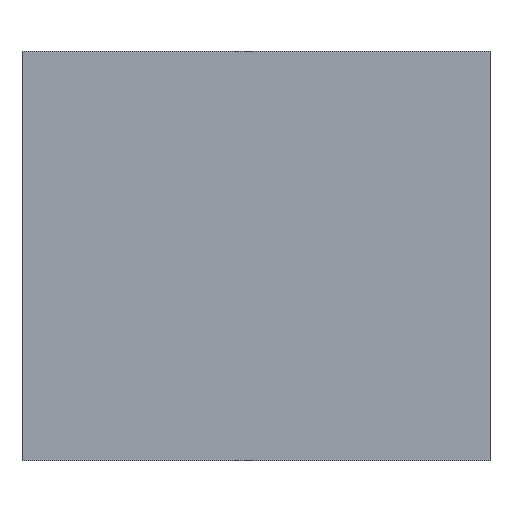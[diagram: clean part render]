
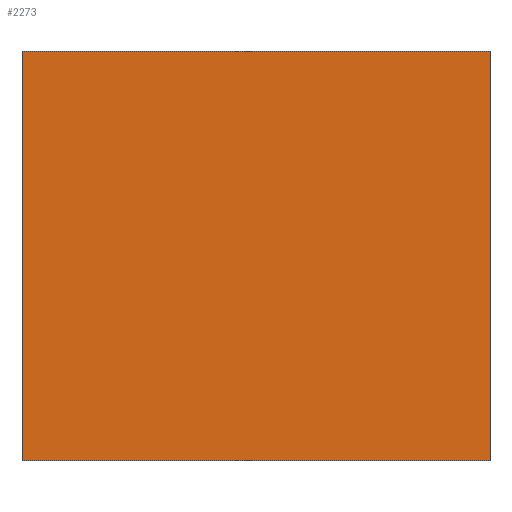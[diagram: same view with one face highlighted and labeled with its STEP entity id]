
A CAD part, front view. The second image highlights one B-rep face of the part: STEP entity #2273.
In plain terms, the highlighted planar face has unit normal (0, -1, 0).
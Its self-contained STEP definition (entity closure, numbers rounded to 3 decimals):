
#166 = CARTESIAN_POINT ( 'NONE',  ( 40., -17.5, 17.5 ) ) ;
#418 = ORIENTED_EDGE ( 'NONE', *, *, #14322, .T. ) ;
#975 = LINE ( 'NONE', #11564, #3925 ) ;
#1130 = VERTEX_POINT ( 'NONE', #9461 ) ;
#1378 = CARTESIAN_POINT ( 'NONE',  ( 40., -17.5, -17.5 ) ) ;
#1462 = CARTESIAN_POINT ( 'NONE',  ( 40., -17.5, 17.5 ) ) ;
#2167 = EDGE_CURVE ( 'NONE', #3015, #5274, #7772, .T. ) ;
#2273 = ADVANCED_FACE ( 'NONE', ( #6046 ), #9205, .F. ) ;
#2400 = DIRECTION ( 'NONE',  ( 0., 0., -1. ) ) ;
#2550 = DIRECTION ( 'NONE',  ( 0., 0., 1. ) ) ;
#2788 = ORIENTED_EDGE ( 'NONE', *, *, #10427, .F. ) ;
#2977 = VECTOR ( 'NONE', #6181, 1000. ) ;
#3015 = VERTEX_POINT ( 'NONE', #11550 ) ;
#3750 = DIRECTION ( 'NONE',  ( -1., 0., 0. ) ) ;
#3925 = VECTOR ( 'NONE', #3750, 1000. ) ;
#5274 = VERTEX_POINT ( 'NONE', #13120 ) ;
#6046 = FACE_OUTER_BOUND ( 'NONE', #6774, .T. ) ;
#6078 = ORIENTED_EDGE ( 'NONE', *, *, #2167, .T. ) ;
#6181 = DIRECTION ( 'NONE',  ( -1., 0., 0. ) ) ;
#6494 = VERTEX_POINT ( 'NONE', #1378 ) ;
#6774 = EDGE_LOOP ( 'NONE', ( #6078, #8152, #2788, #418 ) ) ;
#7102 = VECTOR ( 'NONE', #2400, 1000. ) ;
#7772 = LINE ( 'NONE', #13527, #13424 ) ;
#8152 = ORIENTED_EDGE ( 'NONE', *, *, #11894, .F. ) ;
#9205 = PLANE ( 'NONE',  #11233 ) ;
#9251 = DIRECTION ( 'NONE',  ( 0., 1., 0. ) ) ;
#9461 = CARTESIAN_POINT ( 'NONE',  ( 40., -17.5, 17.5 ) ) ;
#10174 = LINE ( 'NONE', #166, #7102 ) ;
#10427 = EDGE_CURVE ( 'NONE', #1130, #6494, #10174, .T. ) ;
#10733 = CARTESIAN_POINT ( 'NONE',  ( 40., -17.5, -17.5 ) ) ;
#11233 = AXIS2_PLACEMENT_3D ( 'NONE', #1462, #9251, #2550 ) ;
#11550 = CARTESIAN_POINT ( 'NONE',  ( 0., -17.5, 17.5 ) ) ;
#11564 = CARTESIAN_POINT ( 'NONE',  ( 40., -17.5, 17.5 ) ) ;
#11894 = EDGE_CURVE ( 'NONE', #6494, #5274, #11904, .T. ) ;
#11904 = LINE ( 'NONE', #10733, #2977 ) ;
#12393 = DIRECTION ( 'NONE',  ( 0., 0., -1. ) ) ;
#13120 = CARTESIAN_POINT ( 'NONE',  ( 0., -17.5, -17.5 ) ) ;
#13424 = VECTOR ( 'NONE', #12393, 1000. ) ;
#13527 = CARTESIAN_POINT ( 'NONE',  ( 0., -17.5, 17.5 ) ) ;
#14322 = EDGE_CURVE ( 'NONE', #1130, #3015, #975, .T. ) ;
